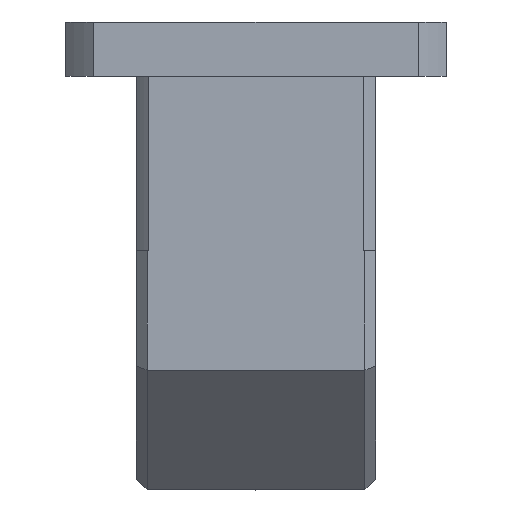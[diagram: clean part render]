
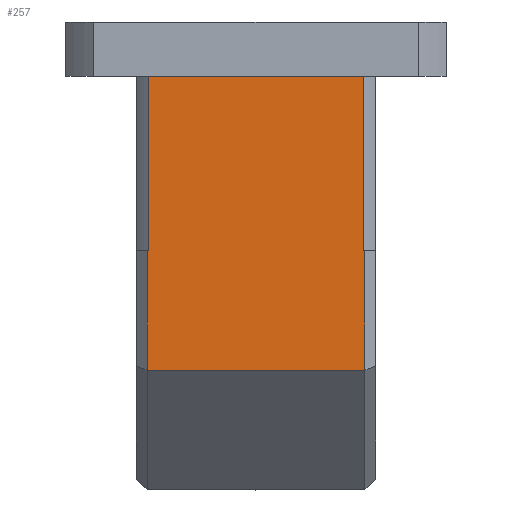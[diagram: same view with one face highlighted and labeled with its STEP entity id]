
A CAD part, left-side view. The second image highlights one B-rep face of the part: STEP entity #257.
In plain terms, the highlighted planar face has unit normal (-1, 0, 0).
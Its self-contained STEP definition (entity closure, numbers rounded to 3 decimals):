
#257=ADVANCED_FACE('',(#414),#366,.T.);
#366=PLANE('',#1989);
#414=FACE_OUTER_BOUND('',#492,.T.);
#492=EDGE_LOOP('',(#983,#984,#985,#986,#987,#988,#989,#990));
#660=LINE('',#2842,#797);
#684=LINE('',#2909,#821);
#685=LINE('',#2912,#822);
#686=LINE('',#2914,#823);
#687=LINE('',#2916,#824);
#688=LINE('',#2918,#825);
#689=LINE('',#2920,#826);
#690=LINE('',#2921,#827);
#797=VECTOR('',#2240,1.);
#821=VECTOR('',#2294,1.);
#822=VECTOR('',#2295,1.);
#823=VECTOR('',#2296,1.);
#824=VECTOR('',#2297,1.);
#825=VECTOR('',#2298,1.);
#826=VECTOR('',#2299,1.);
#827=VECTOR('',#2300,1.);
#983=ORIENTED_EDGE('',*,*,#1661,.F.);
#984=ORIENTED_EDGE('',*,*,#1662,.T.);
#985=ORIENTED_EDGE('',*,*,#1663,.T.);
#986=ORIENTED_EDGE('',*,*,#1664,.T.);
#987=ORIENTED_EDGE('',*,*,#1665,.F.);
#988=ORIENTED_EDGE('',*,*,#1666,.T.);
#989=ORIENTED_EDGE('',*,*,#1625,.T.);
#990=ORIENTED_EDGE('',*,*,#1667,.T.);
#1444=VERTEX_POINT('',#2841);
#1445=VERTEX_POINT('',#2843);
#1473=VERTEX_POINT('',#2910);
#1474=VERTEX_POINT('',#2911);
#1475=VERTEX_POINT('',#2913);
#1476=VERTEX_POINT('',#2915);
#1477=VERTEX_POINT('',#2917);
#1478=VERTEX_POINT('',#2919);
#1625=EDGE_CURVE('',#1445,#1444,#660,.T.);
#1661=EDGE_CURVE('',#1473,#1474,#684,.T.);
#1662=EDGE_CURVE('',#1473,#1475,#685,.T.);
#1663=EDGE_CURVE('',#1475,#1476,#686,.T.);
#1664=EDGE_CURVE('',#1476,#1477,#687,.T.);
#1665=EDGE_CURVE('',#1478,#1477,#688,.T.);
#1666=EDGE_CURVE('',#1478,#1445,#689,.T.);
#1667=EDGE_CURVE('',#1444,#1474,#690,.T.);
#1989=AXIS2_PLACEMENT_3D('',#2922,#2301,#2302);
#2240=DIRECTION('',(0.,1.,0.));
#2294=DIRECTION('',(0.,-1.,0.));
#2295=DIRECTION('',(0.,0.,-1.));
#2296=DIRECTION('',(0.,-1.,0.));
#2297=DIRECTION('',(0.,0.,1.));
#2298=DIRECTION('',(0.,-1.,0.));
#2299=DIRECTION('',(0.,0.,1.));
#2300=DIRECTION('',(0.,0.,-1.));
#2301=DIRECTION('',(-1.,0.,0.));
#2302=DIRECTION('',(0.,0.,1.));
#2841=CARTESIAN_POINT('',(-55.,49.508,190.));
#2842=CARTESIAN_POINT('',(-55.,-55.,190.));
#2843=CARTESIAN_POINT('',(-55.,-49.508,190.));
#2909=CARTESIAN_POINT('',(-55.,-55.,110.));
#2910=CARTESIAN_POINT('',(-55.,50.,110.));
#2911=CARTESIAN_POINT('',(-55.,49.508,110.));
#2912=CARTESIAN_POINT('',(-55.,50.,110.));
#2913=CARTESIAN_POINT('',(-55.,50.,55.));
#2914=CARTESIAN_POINT('',(-55.,-55.,55.));
#2915=CARTESIAN_POINT('',(-55.,-50.,55.));
#2916=CARTESIAN_POINT('',(-55.,-50.,110.));
#2917=CARTESIAN_POINT('',(-55.,-50.,110.));
#2918=CARTESIAN_POINT('',(-55.,-55.,110.));
#2919=CARTESIAN_POINT('',(-55.,-49.508,110.));
#2920=CARTESIAN_POINT('',(-55.,-49.508,110.));
#2921=CARTESIAN_POINT('',(-55.,49.508,110.));
#2922=CARTESIAN_POINT('',(-55.,-55.,110.));
